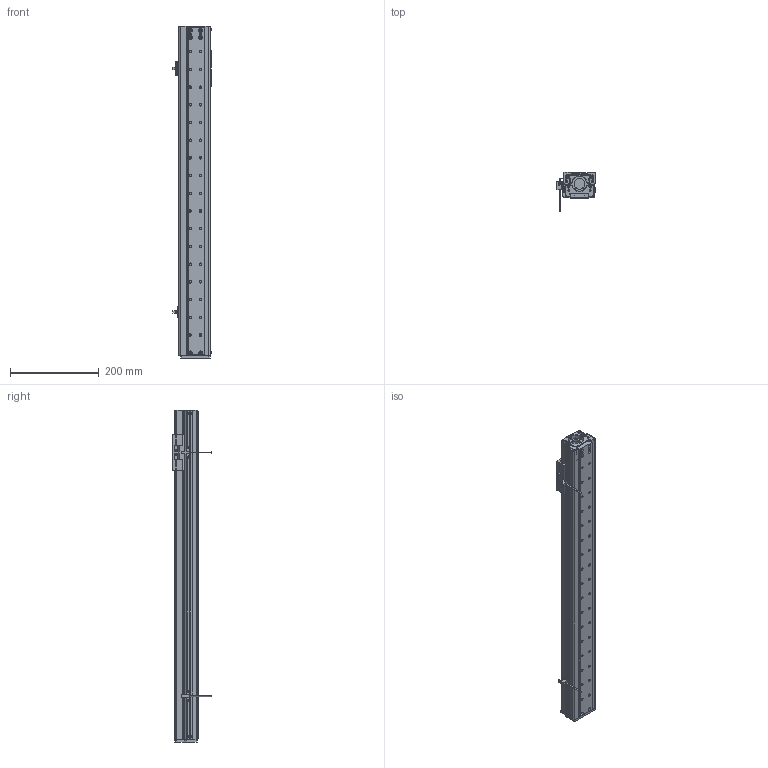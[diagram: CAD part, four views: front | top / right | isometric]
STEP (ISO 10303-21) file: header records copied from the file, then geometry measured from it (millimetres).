
FILE_DESCRIPTION (( 'STEP AP203' ), '1' );
FILE_NAME ('CTHM6-S550.STEP', '2019-12-18T01:51:04', ( '微软用户' ), ( '微软中国' ), 'SwSTEP 2.0', 'SolidWorks 2017', '' );
FILE_SCHEMA (( 'CONFIG_CONTROL_DESIGN' ));
Length unit declared in the file: millimetre
Products named in the file (17): M3-L6半圆头内六角螺丝; 羲壽え; M3-L6囀鞠褒蹟佪; 支持侧轴承座(带磁条); EE-SX672-BR; 遣喳蝶15x12x8; 滅袉蝶; MG60裔啣; CTHM6-S550; 耜結啣(湍羞); LMW15奻窅; DG60傷裔(祥結傷裔); 蟀諉釱(裔啣党蜊); M4-L10囀鞠褒蹟佪; LMW15AA; 侧挡板2(带磁条修改厚度); 固定侧轴承座(自制轴承座)
Assembly tree (29 placements, depth 2):
  CTHM6-S550
    LMW15奻窅
    蟀諉釱(裔啣党蜊)
    LMW15AA
    固定侧轴承座(自制轴承座)
    羲壽え
    支持侧轴承座(带磁条)
    遣喳蝶15x12x8  x2
    MG60裔啣
    耜結啣(湍羞)
    DG60傷裔(祥結傷裔)
    M4-L10囀鞠褒蹟佪  x2
    侧挡板2(带磁条修改厚度)
    M3-L6半圆头内六角螺丝  x8
    M3-L6囀鞠褒蹟佪  x4
    EE-SX672-BR  x2
    滅袉蝶
Bounding box: 86.7 x 87.8 x 750 mm (x, y, z)
Volume: 781458.2 mm3; surface area: 533350.8 mm2
Topology: 33 solids, 33 shells, 1967 faces, 5042 edges, 3120 vertices
Faces by surface type: plane 794, cylinder 713, cone 346, torus 88, bspline 26
Entity records: 53816 total; most frequent: CARTESIAN_POINT 11209, DIRECTION 8770, ORIENTED_EDGE 8300, EDGE_CURVE 4150, AXIS2_PLACEMENT_3D 3282, VERTEX_POINT 2621, VECTOR 2206, LINE 2206
